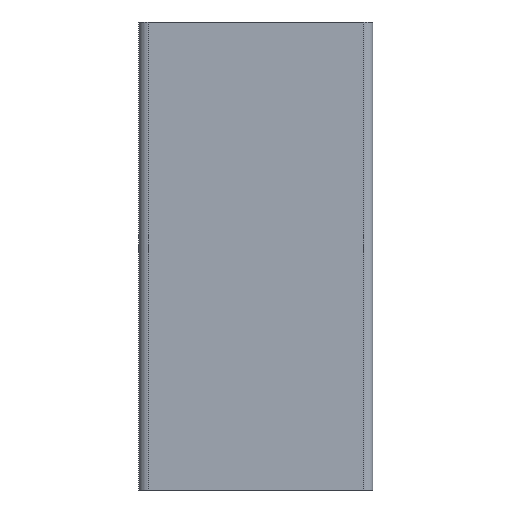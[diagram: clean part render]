
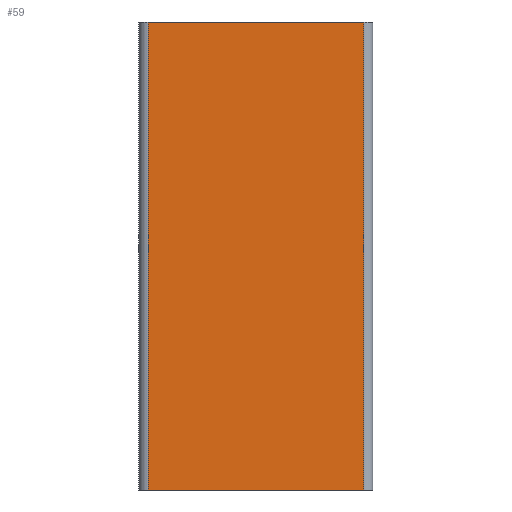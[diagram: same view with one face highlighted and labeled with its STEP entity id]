
A CAD part, front view. The second image highlights one B-rep face of the part: STEP entity #59.
In plain terms, the highlighted planar face has unit normal (0, -1, 0).
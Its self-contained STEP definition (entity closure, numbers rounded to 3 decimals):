
#59=ADVANCED_FACE('',(#171),#173,.T.);
#171=FACE_BOUND('',#172,.T.);
#172=EDGE_LOOP('',(#348,#349,#350,#351));
#173=PLANE('',#174);
#174=AXIS2_PLACEMENT_3D('',#175,#176,#177);
#175=CARTESIAN_POINT('',(-46.,-50.,-200.));
#176=DIRECTION('',(0.,-1.,0.));
#177=DIRECTION('',(1.,0.,0.));
#348=ORIENTED_EDGE('',*,*,#436,.T.);
#349=ORIENTED_EDGE('',*,*,#446,.T.);
#350=ORIENTED_EDGE('',*,*,#414,.F.);
#351=ORIENTED_EDGE('',*,*,#447,.F.);
#414=EDGE_CURVE('',#488,#489,#490,.T.);
#436=EDGE_CURVE('',#518,#527,#529,.T.);
#446=EDGE_CURVE('',#527,#489,#544,.T.);
#447=EDGE_CURVE('',#518,#488,#545,.T.);
#488=VERTEX_POINT('',#626);
#489=VERTEX_POINT('',#627);
#490=LINE('',#628,#629);
#518=VERTEX_POINT('',#697);
#527=VERTEX_POINT('',#719);
#529=LINE('',#724,#725);
#544=LINE('',#762,#763);
#545=LINE('',#765,#766);
#626=CARTESIAN_POINT('',(-46.,-50.,0.));
#627=CARTESIAN_POINT('',(46.,-50.,0.));
#628=CARTESIAN_POINT('',(-46.,-50.,0.));
#629=VECTOR('',#630,1.);
#630=DIRECTION('',(1.,0.,0.));
#697=CARTESIAN_POINT('',(-46.,-50.,-200.));
#719=CARTESIAN_POINT('',(46.,-50.,-200.));
#724=CARTESIAN_POINT('',(-46.,-50.,-200.));
#725=VECTOR('',#726,1.);
#726=DIRECTION('',(1.,0.,0.));
#762=CARTESIAN_POINT('',(46.,-50.,-200.));
#763=VECTOR('',#764,1.);
#764=DIRECTION('',(0.,0.,1.));
#765=CARTESIAN_POINT('',(-46.,-50.,-200.));
#766=VECTOR('',#767,1.);
#767=DIRECTION('',(0.,0.,1.));
